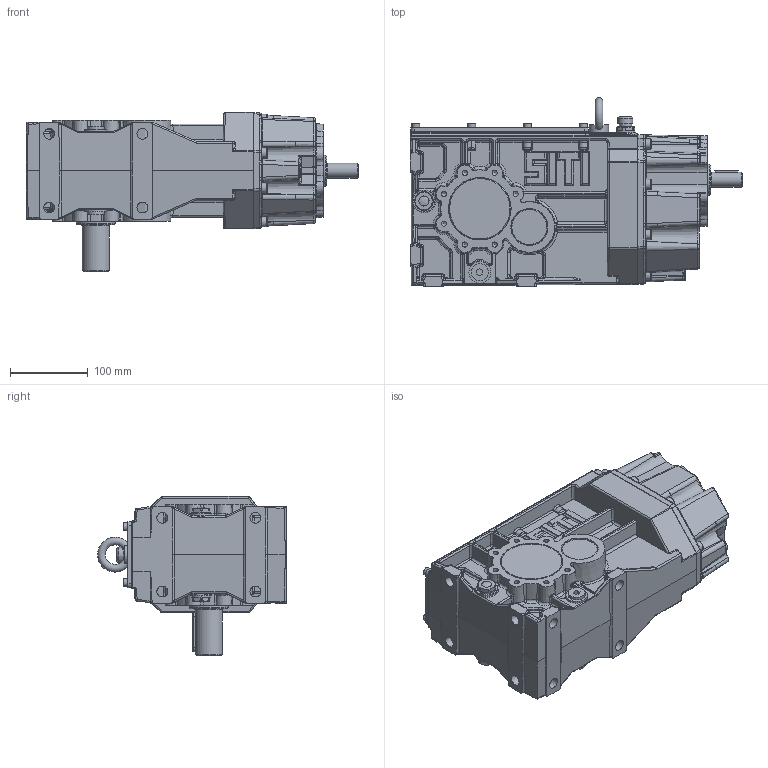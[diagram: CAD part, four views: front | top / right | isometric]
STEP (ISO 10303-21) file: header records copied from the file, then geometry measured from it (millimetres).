
FILE_DESCRIPTION((''),'2;1');
FILE_NAME('O:\Figurini\Figurini BH\3D\BH 63 MS-A.stp','2013-04-17T15:45:08',('d.iannaccio'),(''),'Autodesk Inventor 2012','Autodesk Inventor 2012','');
FILE_SCHEMA(('AUTOMOTIVE_DESIGN { 1 0 10303 214 1 1 1 1 }'));
Length unit declared in the file: millimetre
Products named in the file (1): BH_63 MS-A
Bounding box: 428 x 243.5 x 205 mm (x, y, z)
Volume: 3232929.1 mm3; surface area: 763495.2 mm2
Topology: 2 solids, 44 shells, 3350 faces, 7952 edges, 4692 vertices
Faces by surface type: cylinder 1052, plane 944, bspline 666, torus 290, cone 270, sphere 128
Full cylindrical faces by diameter (mm): 4.2 x1, 4.917 x8, 5 x1, 5.3 x1, 6 x16, 6.5 x1, 6.647 x30, 7 x8, 8 x23, 8.376 x1, 8.4 x1, 8.5 x2, 9 x8, 10 x17, 11 x1, 11.445 x1, 13 x8, 14 x8, 14.95 x5, 16 x1, 18 x1, 19 x1, 19.5 x1, 25 x1, 28 x6, 35 x1, 37.5 x2, 39.592 x1, 39.6 x1, 39.992 x3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
Entity records: 116941 total; most frequent: CARTESIAN_POINT 41898, DIRECTION 14696, ORIENTED_EDGE 14602, EDGE_CURVE 7301, AXIS2_PLACEMENT_3D 6052, VERTEX_POINT 4533, EDGE_LOOP 3914, STYLED_ITEM 3351
